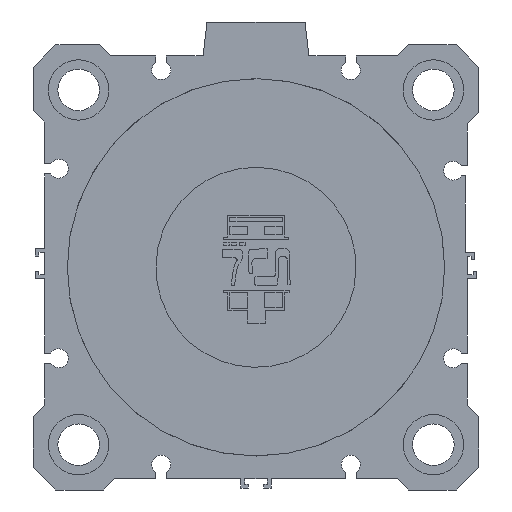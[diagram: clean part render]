
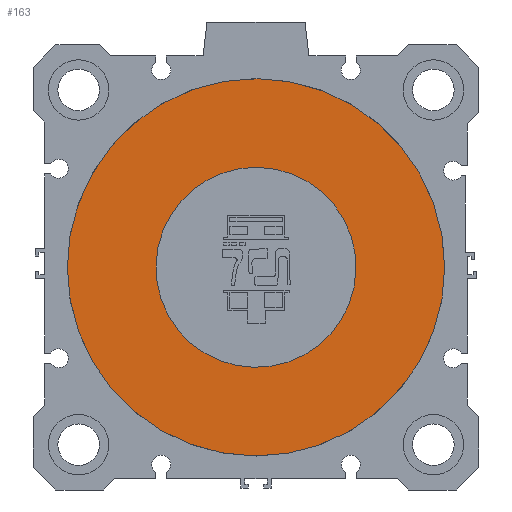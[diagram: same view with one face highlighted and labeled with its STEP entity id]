
A CAD part, left-side view. The second image highlights one B-rep face of the part: STEP entity #163.
In plain terms, the highlighted planar face has unit normal (-1, 0, 0).
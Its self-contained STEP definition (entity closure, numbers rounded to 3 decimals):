
#81=CARTESIAN_POINT('Vertex',(6.,12.705,23.256)) ;
#84=CARTESIAN_POINT('Axis2P3D Location',(6.,0.,0.)) ;
#88=CARTESIAN_POINT('Vertex',(6.,-12.705,-23.256)) ;
#108=CARTESIAN_POINT('Axis2P3D Location',(6.,0.,0.)) ;
#120=CARTESIAN_POINT('Axis2P3D Location',(6.,0.,50.)) ;
#125=CARTESIAN_POINT('Axis2P3D Location',(6.,0.,0.)) ;
#129=CARTESIAN_POINT('Vertex',(6.,-23.971,-43.879)) ;
#131=CARTESIAN_POINT('Vertex',(6.,-50.,0.)) ;
#134=CARTESIAN_POINT('Axis2P3D Location',(6.,0.,0.)) ;
#138=CARTESIAN_POINT('Vertex',(6.,23.971,43.879)) ;
#141=CARTESIAN_POINT('Axis2P3D Location',(6.,0.,0.)) ;
#145=CARTESIAN_POINT('Vertex',(6.,50.,0.)) ;
#148=CARTESIAN_POINT('Axis2P3D Location',(6.,0.,0.)) ;
#85=DIRECTION('Axis2P3D Direction',(-1.,0.,0.)) ;
#109=DIRECTION('Axis2P3D Direction',(-1.,0.,0.)) ;
#121=DIRECTION('Axis2P3D Direction',(-1.,0.,0.)) ;
#122=DIRECTION('Axis2P3D XDirection',(0.,1.,0.)) ;
#126=DIRECTION('Axis2P3D Direction',(-1.,0.,0.)) ;
#135=DIRECTION('Axis2P3D Direction',(-1.,0.,0.)) ;
#142=DIRECTION('Axis2P3D Direction',(-1.,0.,0.)) ;
#149=DIRECTION('Axis2P3D Direction',(-1.,0.,0.)) ;
#86=AXIS2_PLACEMENT_3D('Circle Axis2P3D',#84,#85,$) ;
#110=AXIS2_PLACEMENT_3D('Circle Axis2P3D',#108,#109,$) ;
#123=AXIS2_PLACEMENT_3D('Plane Axis2P3D',#120,#121,#122) ;
#127=AXIS2_PLACEMENT_3D('Circle Axis2P3D',#125,#126,$) ;
#136=AXIS2_PLACEMENT_3D('Circle Axis2P3D',#134,#135,$) ;
#143=AXIS2_PLACEMENT_3D('Circle Axis2P3D',#141,#142,$) ;
#150=AXIS2_PLACEMENT_3D('Circle Axis2P3D',#148,#149,$) ;
#154=ORIENTED_EDGE('',*,*,#133,.T.) ;
#155=ORIENTED_EDGE('',*,*,#140,.T.) ;
#156=ORIENTED_EDGE('',*,*,#147,.T.) ;
#157=ORIENTED_EDGE('',*,*,#152,.T.) ;
#160=ORIENTED_EDGE('',*,*,#90,.F.) ;
#161=ORIENTED_EDGE('',*,*,#112,.F.) ;
#162=FACE_BOUND('',#159,.T.) ;
#163=ADVANCED_FACE('PartBody',(#158,#162),#124,.T.) ;
#87=CIRCLE('generated circle',#86,26.5) ;
#111=CIRCLE('generated circle',#110,26.5) ;
#128=CIRCLE('generated circle',#127,50.) ;
#137=CIRCLE('generated circle',#136,50.) ;
#144=CIRCLE('generated circle',#143,50.) ;
#151=CIRCLE('generated circle',#150,50.) ;
#90=EDGE_CURVE('',#82,#89,#87,.T.) ;
#112=EDGE_CURVE('',#89,#82,#111,.T.) ;
#133=EDGE_CURVE('',#130,#132,#128,.T.) ;
#140=EDGE_CURVE('',#132,#139,#137,.T.) ;
#147=EDGE_CURVE('',#139,#146,#144,.T.) ;
#152=EDGE_CURVE('',#146,#130,#151,.T.) ;
#153=EDGE_LOOP('',(#154,#155,#156,#157)) ;
#159=EDGE_LOOP('',(#160,#161)) ;
#158=FACE_OUTER_BOUND('',#153,.T.) ;
#124=PLANE('',#123) ;
#82=VERTEX_POINT('',#81) ;
#89=VERTEX_POINT('',#88) ;
#130=VERTEX_POINT('',#129) ;
#132=VERTEX_POINT('',#131) ;
#139=VERTEX_POINT('',#138) ;
#146=VERTEX_POINT('',#145) ;
